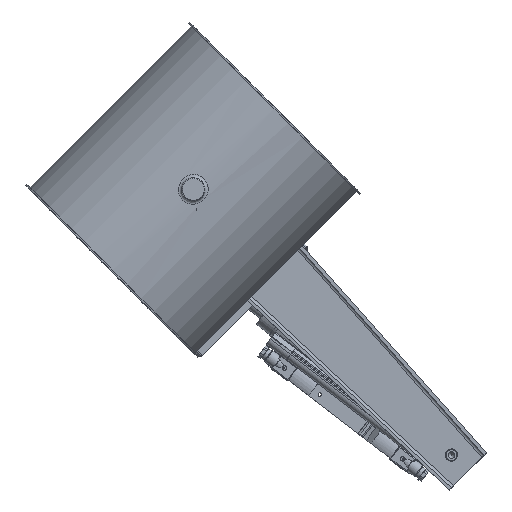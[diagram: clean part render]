
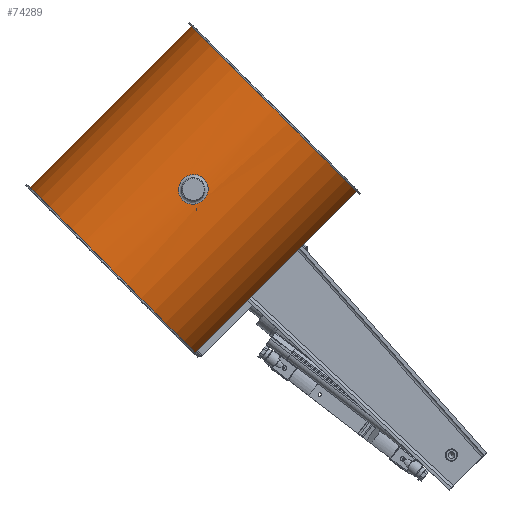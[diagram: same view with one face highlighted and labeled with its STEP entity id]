
A CAD part, top view. The second image highlights one B-rep face of the part: STEP entity #74289.
In plain terms, the highlighted cylindrical face has radius 151.5 mm (diameter 303 mm), a full revolution.
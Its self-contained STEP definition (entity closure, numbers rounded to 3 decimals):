
#73961=CARTESIAN_POINT('',(-150.174,20.0,150.));
#73962=VERTEX_POINT('',#73961);
#73963=CARTESIAN_POINT('',(-150.174,20.0,150.));
#73964=CARTESIAN_POINT('',(-150.174,20.0,151.257));
#73965=CARTESIAN_POINT('',(-150.19,19.88,152.557));
#73966=CARTESIAN_POINT('',(-150.256,19.373,155.141));
#73967=CARTESIAN_POINT('',(-150.306,18.986,156.426));
#73968=CARTESIAN_POINT('',(-150.432,17.965,158.889));
#73969=CARTESIAN_POINT('',(-150.507,17.33,160.07));
#73970=CARTESIAN_POINT('',(-150.669,15.862,162.253));
#73971=CARTESIAN_POINT('',(-150.755,15.029,163.255));
#73972=CARTESIAN_POINT('',(-150.922,13.255,165.029));
#73973=CARTESIAN_POINT('',(-151.008,12.253,165.862));
#73974=CARTESIAN_POINT('',(-151.169,10.07,167.33));
#73975=CARTESIAN_POINT('',(-151.244,8.889,167.965));
#73976=CARTESIAN_POINT('',(-151.369,6.426,168.986));
#73977=CARTESIAN_POINT('',(-151.418,5.141,169.373));
#73978=CARTESIAN_POINT('',(-151.484,2.557,169.88));
#73979=CARTESIAN_POINT('',(-151.5,1.257,170.0));
#73980=CARTESIAN_POINT('',(-151.5,-1.257,170.0));
#73981=CARTESIAN_POINT('',(-151.484,-2.557,169.88));
#73982=CARTESIAN_POINT('',(-151.418,-5.141,169.373));
#73983=CARTESIAN_POINT('',(-151.369,-6.426,168.986));
#73984=CARTESIAN_POINT('',(-151.244,-8.889,167.965));
#73985=CARTESIAN_POINT('',(-151.169,-10.07,167.33));
#73986=CARTESIAN_POINT('',(-151.008,-12.253,165.862));
#73987=CARTESIAN_POINT('',(-150.922,-13.255,165.029));
#73988=CARTESIAN_POINT('',(-150.755,-15.029,163.255));
#73989=CARTESIAN_POINT('',(-150.669,-15.862,162.253));
#73990=CARTESIAN_POINT('',(-150.507,-17.33,160.07));
#73991=CARTESIAN_POINT('',(-150.432,-17.965,158.889));
#73992=CARTESIAN_POINT('',(-150.306,-18.986,156.426));
#73993=CARTESIAN_POINT('',(-150.256,-19.373,155.141));
#73994=CARTESIAN_POINT('',(-150.19,-19.88,152.557));
#73995=CARTESIAN_POINT('',(-150.174,-20.0,151.257));
#73996=CARTESIAN_POINT('',(-150.174,-20.0,148.743));
#73997=CARTESIAN_POINT('',(-150.19,-19.88,147.443));
#73998=CARTESIAN_POINT('',(-150.256,-19.373,144.859));
#73999=CARTESIAN_POINT('',(-150.306,-18.986,143.574));
#74000=CARTESIAN_POINT('',(-150.432,-17.965,141.111));
#74001=CARTESIAN_POINT('',(-150.507,-17.33,139.93));
#74002=CARTESIAN_POINT('',(-150.669,-15.862,137.747));
#74003=CARTESIAN_POINT('',(-150.755,-15.029,136.745));
#74004=CARTESIAN_POINT('',(-150.922,-13.255,134.971));
#74005=CARTESIAN_POINT('',(-151.008,-12.253,134.138));
#74006=CARTESIAN_POINT('',(-151.169,-10.07,132.67));
#74007=CARTESIAN_POINT('',(-151.244,-8.889,132.035));
#74008=CARTESIAN_POINT('',(-151.369,-6.426,131.014));
#74009=CARTESIAN_POINT('',(-151.418,-5.141,130.627));
#74010=CARTESIAN_POINT('',(-151.484,-2.557,130.12));
#74011=CARTESIAN_POINT('',(-151.5,-1.257,130.0));
#74012=CARTESIAN_POINT('',(-151.5,1.257,130.0));
#74013=CARTESIAN_POINT('',(-151.484,2.557,130.12));
#74014=CARTESIAN_POINT('',(-151.418,5.141,130.627));
#74015=CARTESIAN_POINT('',(-151.369,6.426,131.014));
#74016=CARTESIAN_POINT('',(-151.244,8.889,132.035));
#74017=CARTESIAN_POINT('',(-151.169,10.07,132.67));
#74018=CARTESIAN_POINT('',(-151.008,12.253,134.138));
#74019=CARTESIAN_POINT('',(-150.922,13.255,134.971));
#74020=CARTESIAN_POINT('',(-150.755,15.029,136.745));
#74021=CARTESIAN_POINT('',(-150.669,15.862,137.747));
#74022=CARTESIAN_POINT('',(-150.507,17.33,139.93));
#74023=CARTESIAN_POINT('',(-150.432,17.965,141.111));
#74024=CARTESIAN_POINT('',(-150.306,18.986,143.574));
#74025=CARTESIAN_POINT('',(-150.256,19.373,144.859));
#74026=CARTESIAN_POINT('',(-150.19,19.88,147.443));
#74027=CARTESIAN_POINT('',(-150.174,20.,148.743));
#74028=CARTESIAN_POINT('',(-150.174,20.,150.));
#74029=B_SPLINE_CURVE_WITH_KNOTS('',3,(#73963,#73964,#73965,#73966,#73967,#73968,#73969,#73970,#73971,#73972,#73973,#73974,#73975,#73976,#73977,#73978,#73979,#73980,#73981,#73982,#73983,#73984,#73985,#73986,#73987,#73988,#73989,#73990,#73991,#73992,#73993,#73994,#73995,#73996,#73997,#73998,#73999,#74000,#74001,#74002,#74003,#74004,#74005,#74006,#74007,#74008,#74009,#74010,#74011,#74012,#74013,#74014,#74015,#74016,#74017,#74018,#74019,#74020,#74021,#74022,#74023,#74024,#74025,#74026,#74027,#74028),.UNSPECIFIED.,.T.,.U.,(4,2,2,2,2,2,2,2,2,2,2,2,2,2,2,2,2,2,2,2,2,2,2,2,2,2,2,2,2,2,2,2,4),(0.0,0.377,0.754,1.131,1.509,1.886,2.263,2.64,3.017,3.394,3.772,4.149,4.526,4.903,5.28,5.657,6.035,6.412,6.789,7.166,7.543,7.92,8.298,8.675,9.052,9.429,9.806,10.183,10.56,10.938,11.315,11.692,12.069),.UNSPECIFIED.);
#74030=EDGE_CURVE('',#73962,#73962,#74029,.T.);
#74218=CARTESIAN_POINT('',(150.312,18.938,150.0));
#74219=VERTEX_POINT('',#74218);
#74229=CARTESIAN_POINT('',(150.312,18.937,150.));
#74230=CARTESIAN_POINT('',(150.312,18.937,150.002));
#74231=CARTESIAN_POINT('',(150.312,18.937,150.003));
#74232=CARTESIAN_POINT('',(150.312,18.937,150.005));
#74233=CARTESIAN_POINT('',(150.312,18.936,152.909));
#74234=CARTESIAN_POINT('',(150.481,17.664,158.707));
#74235=CARTESIAN_POINT('',(151.057,12.226,165.749));
#74236=CARTESIAN_POINT('',(151.517,4.403,169.649));
#74237=CARTESIAN_POINT('',(151.517,-4.35,169.663));
#74238=CARTESIAN_POINT('',(151.062,-12.184,165.777));
#74239=CARTESIAN_POINT('',(150.415,-18.25,158.));
#74240=CARTESIAN_POINT('',(150.226,-19.581,148.949));
#74241=CARTESIAN_POINT('',(150.586,-16.765,139.525));
#74242=CARTESIAN_POINT('',(151.135,-11.407,133.587));
#74243=CARTESIAN_POINT('',(151.518,-3.402,130.344));
#74244=CARTESIAN_POINT('',(151.518,4.351,130.339));
#74245=CARTESIAN_POINT('',(151.058,12.209,134.23));
#74246=CARTESIAN_POINT('',(150.58,16.736,140.084));
#74247=CARTESIAN_POINT('',(150.353,18.613,145.611));
#74248=CARTESIAN_POINT('',(150.312,18.937,148.55));
#74249=CARTESIAN_POINT('',(150.312,18.937,150.));
#74250=B_SPLINE_CURVE_WITH_KNOTS('',3,(#74229,#74230,#74231,#74232,#74233,#74234,#74235,#74236,#74237,#74238,#74239,#74240,#74241,#74242,#74243,#74244,#74245,#74246,#74247,#74248,#74249),.UNSPECIFIED.,.T.,.U.,(4,3,1,1,1,1,1,1,1,1,1,1,1,1,1,1,4),(-9.047,-9.047,-8.401,-7.754,-7.108,-6.462,-5.816,-5.17,-4.308,-3.877,-3.016,-2.585,-1.939,-1.292,-0.646,-0.323,0.),.UNSPECIFIED.);
#74251=EDGE_CURVE('',#74219,#74219,#74250,.T.);
#74256=CARTESIAN_POINT('',(0.0,0.0,0.0));
#74257=DIRECTION('',(0.0,0.0,1.0));
#74258=DIRECTION('',(-1.0,0.0,0.0));
#74259=AXIS2_PLACEMENT_3D('',#74256,#74257,#74258);
#74260=CYLINDRICAL_SURFACE('',#74259,151.5);
#74261=CARTESIAN_POINT('',(151.5,0.,298.0));
#74262=VERTEX_POINT('',#74261);
#74263=CARTESIAN_POINT('',(0.0,0.0,298.0));
#74264=DIRECTION('',(0.0,0.0,-1.0));
#74265=DIRECTION('',(-1.0,0.0,0.0));
#74266=AXIS2_PLACEMENT_3D('',#74263,#74264,#74265);
#74267=CIRCLE('',#74266,151.5);
#74268=EDGE_CURVE('',#74262,#74262,#74267,.T.);
#74269=ORIENTED_EDGE('',*,*,#74268,.T.);
#74270=EDGE_LOOP('',(#74269));
#74271=FACE_OUTER_BOUND('',#74270,.T.);
#74272=ORIENTED_EDGE('',*,*,#74030,.T.);
#74273=EDGE_LOOP('',(#74272));
#74274=FACE_BOUND('',#74273,.T.);
#74275=CARTESIAN_POINT('',(-151.5,0.,2.0));
#74276=VERTEX_POINT('',#74275);
#74277=CARTESIAN_POINT('',(0.0,0.0,2.0));
#74278=DIRECTION('',(0.0,0.0,1.0));
#74279=DIRECTION('',(-1.0,0.0,0.0));
#74280=AXIS2_PLACEMENT_3D('',#74277,#74278,#74279);
#74281=CIRCLE('',#74280,151.5);
#74282=EDGE_CURVE('',#74276,#74276,#74281,.T.);
#74283=ORIENTED_EDGE('',*,*,#74282,.T.);
#74284=EDGE_LOOP('',(#74283));
#74285=FACE_BOUND('',#74284,.T.);
#74286=ORIENTED_EDGE('',*,*,#74251,.F.);
#74287=EDGE_LOOP('',(#74286));
#74288=FACE_BOUND('',#74287,.T.);
#74289=ADVANCED_FACE('',(#74271,#74274,#74285,#74288),#74260,.T.);
